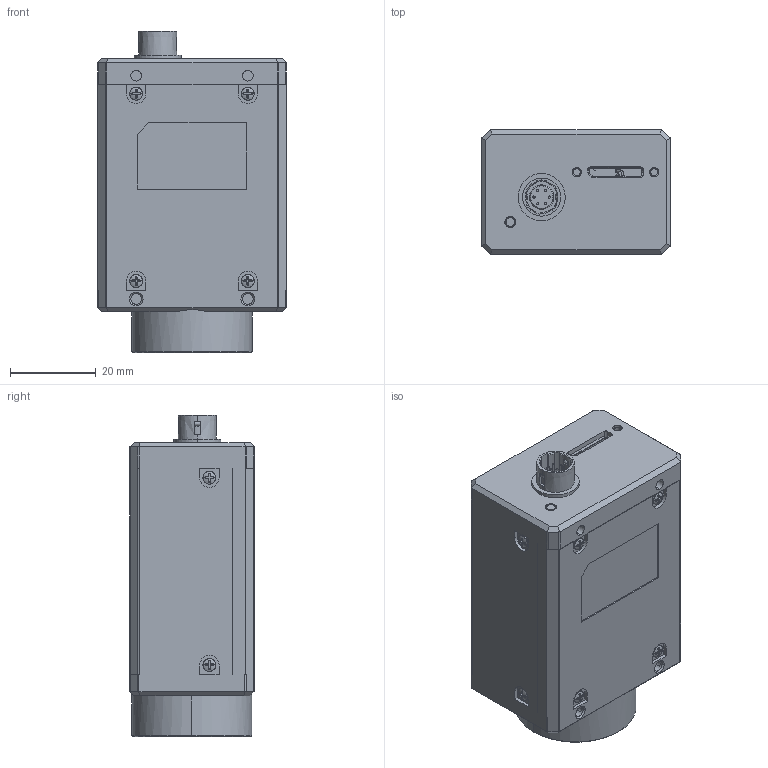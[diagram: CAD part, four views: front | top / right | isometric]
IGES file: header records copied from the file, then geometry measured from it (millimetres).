
Start section:  PTC IGES file: 444.igs
Global section: file name: 444.igs; native system: Creo Parametric by PTC Inc.; preprocessor: 2017260; author: wangyijun6; organization: Unknown; date: 20200311.152800; units: millimetre
Bounding box: 44 x 29.1 x 74.76 mm (x, y, z)
Volume: 72853.6 mm3; surface area: 22038.2 mm2
Topology: 1 solids, 4 shells, 1553 faces, 4446 edges, 2893 vertices
Faces by surface type: bspline 872, revolution 681
